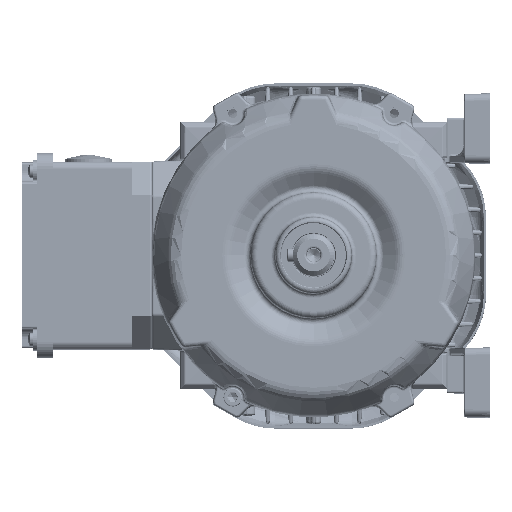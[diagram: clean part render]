
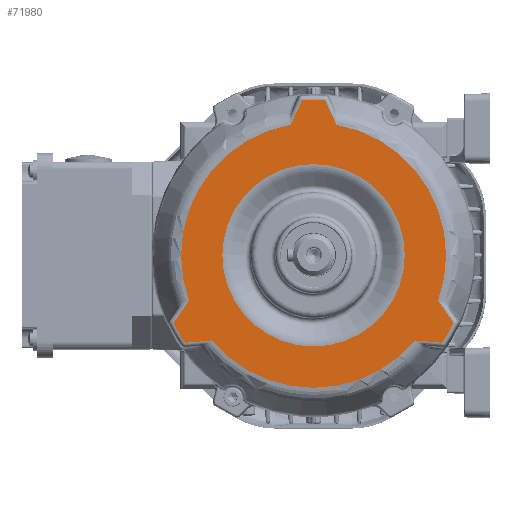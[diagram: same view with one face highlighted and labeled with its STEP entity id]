
A CAD part, top view. The second image highlights one B-rep face of the part: STEP entity #71980.
In plain terms, the highlighted planar face has unit normal (0, 0, 1).
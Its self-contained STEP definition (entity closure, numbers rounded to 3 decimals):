
#61846=PLANE('',#225467);
#71980=ADVANCED_FACE('',(#77147,#77148),#61846,.F.);
#77147=FACE_BOUND('',#88271,.T.);
#77148=FACE_BOUND('',#88272,.T.);
#88271=EDGE_LOOP('',(#135740,#135741,#135742,#135743,#135744,#135745,#135746,
#135747,#135748,#135749,#135750,#135751));
#88272=EDGE_LOOP('',(#135752));
#135740=ORIENTED_EDGE('',*,*,#175640,.F.);
#135741=ORIENTED_EDGE('',*,*,#175641,.T.);
#135742=ORIENTED_EDGE('',*,*,#175642,.T.);
#135743=ORIENTED_EDGE('',*,*,#175643,.T.);
#135744=ORIENTED_EDGE('',*,*,#175644,.F.);
#135745=ORIENTED_EDGE('',*,*,#175645,.T.);
#135746=ORIENTED_EDGE('',*,*,#175646,.T.);
#135747=ORIENTED_EDGE('',*,*,#175647,.T.);
#135748=ORIENTED_EDGE('',*,*,#175648,.F.);
#135749=ORIENTED_EDGE('',*,*,#175649,.T.);
#135750=ORIENTED_EDGE('',*,*,#175650,.T.);
#135751=ORIENTED_EDGE('',*,*,#175651,.T.);
#135752=ORIENTED_EDGE('',*,*,#175652,.T.);
#151631=VERTEX_POINT('',#415289);
#151632=VERTEX_POINT('',#415290);
#151633=VERTEX_POINT('',#415292);
#151634=VERTEX_POINT('',#415294);
#151635=VERTEX_POINT('',#415296);
#151636=VERTEX_POINT('',#415298);
#151637=VERTEX_POINT('',#415300);
#151638=VERTEX_POINT('',#415302);
#151639=VERTEX_POINT('',#415304);
#151640=VERTEX_POINT('',#415306);
#151641=VERTEX_POINT('',#415308);
#151642=VERTEX_POINT('',#415310);
#151643=VERTEX_POINT('',#415313);
#175640=EDGE_CURVE('',#151631,#151632,#185401,.T.);
#175641=EDGE_CURVE('',#151631,#151633,#193541,.T.);
#175642=EDGE_CURVE('',#151633,#151634,#185402,.T.);
#175643=EDGE_CURVE('',#151634,#151635,#193542,.T.);
#175644=EDGE_CURVE('',#151636,#151635,#185403,.T.);
#175645=EDGE_CURVE('',#151636,#151637,#193543,.T.);
#175646=EDGE_CURVE('',#151637,#151638,#185404,.T.);
#175647=EDGE_CURVE('',#151638,#151639,#193544,.T.);
#175648=EDGE_CURVE('',#151640,#151639,#185405,.T.);
#175649=EDGE_CURVE('',#151640,#151641,#193545,.T.);
#175650=EDGE_CURVE('',#151641,#151642,#185406,.T.);
#175651=EDGE_CURVE('',#151642,#151632,#193546,.T.);
#175652=EDGE_CURVE('',#151643,#151643,#185407,.T.);
#185401=CIRCLE('',#225460,60.682);
#185402=CIRCLE('',#225461,71.24);
#185403=CIRCLE('',#225462,60.682);
#185404=CIRCLE('',#225463,71.24);
#185405=CIRCLE('',#225464,60.682);
#185406=CIRCLE('',#225465,71.24);
#185407=CIRCLE('',#225466,41.768);
#193541=LINE('',#415291,#201481);
#193542=LINE('',#415295,#201482);
#193543=LINE('',#415299,#201483);
#193544=LINE('',#415303,#201484);
#193545=LINE('',#415307,#201485);
#193546=LINE('',#415311,#201486);
#201481=VECTOR('',#268911,1.);
#201482=VECTOR('',#268914,1.);
#201483=VECTOR('',#268917,1.);
#201484=VECTOR('',#268920,1.);
#201485=VECTOR('',#268923,1.);
#201486=VECTOR('',#268926,1.);
#225460=AXIS2_PLACEMENT_3D('',#415288,#268909,#268910);
#225461=AXIS2_PLACEMENT_3D('',#415293,#268912,#268913);
#225462=AXIS2_PLACEMENT_3D('',#415297,#268915,#268916);
#225463=AXIS2_PLACEMENT_3D('',#415301,#268918,#268919);
#225464=AXIS2_PLACEMENT_3D('',#415305,#268921,#268922);
#225465=AXIS2_PLACEMENT_3D('',#415309,#268924,#268925);
#225466=AXIS2_PLACEMENT_3D('',#415312,#268927,#268928);
#225467=AXIS2_PLACEMENT_3D('',#415314,#268929,#268930);
#268909=DIRECTION('',(0.,0.,-1.));
#268910=DIRECTION('',(-1.,0.,0.));
#268911=DIRECTION('',(0.996,-0.087,0.));
#268912=DIRECTION('',(0.,0.,1.));
#268913=DIRECTION('',(-1.,0.,0.));
#268914=DIRECTION('',(-0.574,0.819,0.));
#268915=DIRECTION('',(0.,0.,-1.));
#268916=DIRECTION('',(-1.,0.,0.));
#268917=DIRECTION('',(-0.423,0.906,0.));
#268918=DIRECTION('',(0.,0.,1.));
#268919=DIRECTION('',(-1.,0.,0.));
#268920=DIRECTION('',(-0.423,-0.906,0.));
#268921=DIRECTION('',(0.,0.,-1.));
#268922=DIRECTION('',(-1.,0.,0.));
#268923=DIRECTION('',(-0.574,-0.819,0.));
#268924=DIRECTION('',(0.,0.,1.));
#268925=DIRECTION('',(-1.,0.,0.));
#268926=DIRECTION('',(0.996,0.087,0.));
#268927=DIRECTION('',(0.,0.,-1.));
#268928=DIRECTION('',(-1.,0.,0.));
#268929=DIRECTION('',(0.,0.,-1.));
#268930=DIRECTION('',(-1.,0.,0.));
#415288=CARTESIAN_POINT('',(0.,0.,60.));
#415289=CARTESIAN_POINT('',(46.503,-38.985,60.));
#415290=CARTESIAN_POINT('',(-46.503,-38.985,60.));
#415291=CARTESIAN_POINT('',(58.863,-40.066,60.));
#415292=CARTESIAN_POINT('',(58.903,-40.069,60.));
#415293=CARTESIAN_POINT('',(0.,0.,60.));
#415294=CARTESIAN_POINT('',(64.152,-30.976,60.));
#415295=CARTESIAN_POINT('',(56.205,-19.627,60.));
#415296=CARTESIAN_POINT('',(57.013,-20.781,60.));
#415297=CARTESIAN_POINT('',(0.,0.,60.));
#415298=CARTESIAN_POINT('',(10.51,59.765,60.));
#415299=CARTESIAN_POINT('',(5.267,71.01,60.));
#415300=CARTESIAN_POINT('',(5.25,71.046,60.));
#415301=CARTESIAN_POINT('',(0.,0.,60.));
#415302=CARTESIAN_POINT('',(-5.25,71.046,60.));
#415303=CARTESIAN_POINT('',(-11.105,58.489,60.));
#415304=CARTESIAN_POINT('',(-10.51,59.765,60.));
#415305=CARTESIAN_POINT('',(0.,0.,60.));
#415306=CARTESIAN_POINT('',(-57.013,-20.781,60.));
#415307=CARTESIAN_POINT('',(-64.13,-30.944,60.));
#415308=CARTESIAN_POINT('',(-64.152,-30.976,60.));
#415309=CARTESIAN_POINT('',(0.,0.,60.));
#415310=CARTESIAN_POINT('',(-58.903,-40.069,60.));
#415311=CARTESIAN_POINT('',(-45.1,-38.862,60.));
#415312=CARTESIAN_POINT('',(0.,0.,60.));
#415313=CARTESIAN_POINT('',(-41.768,0.,60.));
#415314=CARTESIAN_POINT('',(41.768,0.,60.));
